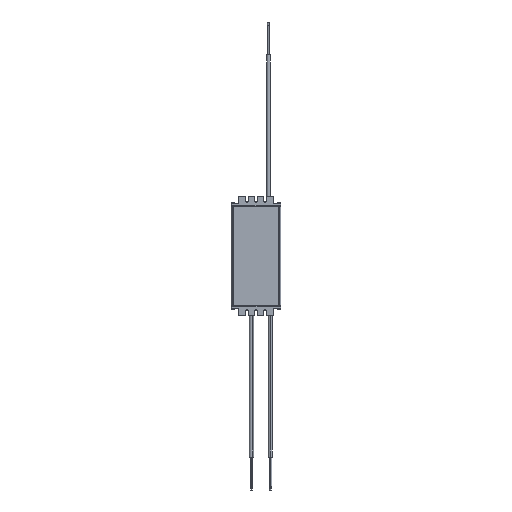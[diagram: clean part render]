
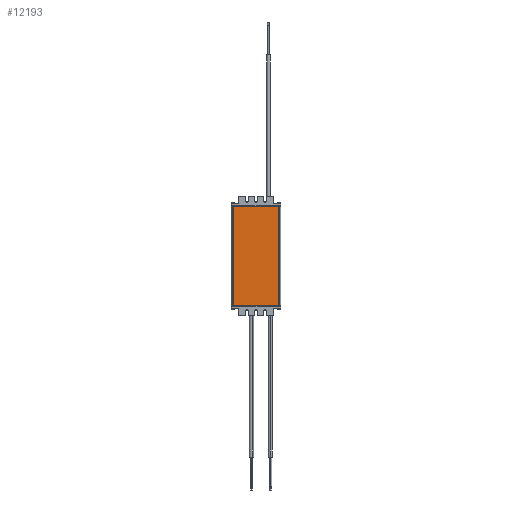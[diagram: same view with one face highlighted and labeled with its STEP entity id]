
A CAD part, front view. The second image highlights one B-rep face of the part: STEP entity #12193.
In plain terms, the highlighted planar face has unit normal (0, -1, 0).
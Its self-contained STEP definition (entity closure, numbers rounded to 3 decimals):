
#591 = VERTEX_POINT ( 'NONE', #1015 ) ;
#636 = EDGE_CURVE ( 'NONE', #9496, #591, #13024, .T. ) ;
#1015 = CARTESIAN_POINT ( 'NONE',  ( 21.536, 110.04, 0. ) ) ;
#2218 = LINE ( 'NONE', #36376, #18527 ) ;
#5076 = EDGE_CURVE ( 'NONE', #11136, #13632, #29777, .T. ) ;
#5698 = EDGE_CURVE ( 'NONE', #591, #13632, #2218, .T. ) ;
#6621 = ORIENTED_EDGE ( 'NONE', *, *, #636, .T. ) ;
#7942 = ORIENTED_EDGE ( 'NONE', *, *, #5076, .F. ) ;
#9496 = VERTEX_POINT ( 'NONE', #18930 ) ;
#10391 = CARTESIAN_POINT ( 'NONE',  ( 112.436, 110.04, 201. ) ) ;
#11136 = VERTEX_POINT ( 'NONE', #27860 ) ;
#12193 = ADVANCED_FACE ( 'NONE', ( #15938 ), #19555, .F. ) ;
#13024 = LINE ( 'NONE', #34621, #35963 ) ;
#13632 = VERTEX_POINT ( 'NONE', #38476 ) ;
#13853 = DIRECTION ( 'NONE',  ( 0., 0., -1. ) ) ;
#14138 = ORIENTED_EDGE ( 'NONE', *, *, #16105, .F. ) ;
#14823 = VECTOR ( 'NONE', #30092, 1000. ) ;
#15938 = FACE_OUTER_BOUND ( 'NONE', #38480, .T. ) ;
#16105 = EDGE_CURVE ( 'NONE', #9496, #11136, #26570, .T. ) ;
#16674 = CARTESIAN_POINT ( 'NONE',  ( 112.436, 110.04, 201. ) ) ;
#18466 = CARTESIAN_POINT ( 'NONE',  ( 112.436, 110.04, 201. ) ) ;
#18527 = VECTOR ( 'NONE', #24485, 1000. ) ;
#18930 = CARTESIAN_POINT ( 'NONE',  ( 21.536, 110.04, 201. ) ) ;
#19555 = PLANE ( 'NONE',  #34914 ) ;
#24485 = DIRECTION ( 'NONE',  ( 1., 0., 0. ) ) ;
#26570 = LINE ( 'NONE', #10391, #28858 ) ;
#27860 = CARTESIAN_POINT ( 'NONE',  ( 112.436, 110.04, 201. ) ) ;
#28424 = DIRECTION ( 'NONE',  ( 0., 0., 1. ) ) ;
#28858 = VECTOR ( 'NONE', #34270, 1000. ) ;
#29777 = LINE ( 'NONE', #18466, #14823 ) ;
#30092 = DIRECTION ( 'NONE',  ( 0., 0., -1. ) ) ;
#31930 = DIRECTION ( 'NONE',  ( 0., 1., 0. ) ) ;
#34270 = DIRECTION ( 'NONE',  ( 1., 0., 0. ) ) ;
#34621 = CARTESIAN_POINT ( 'NONE',  ( 21.536, 110.04, 201. ) ) ;
#34914 = AXIS2_PLACEMENT_3D ( 'NONE', #16674, #31930, #28424 ) ;
#35963 = VECTOR ( 'NONE', #13853, 1000. ) ;
#36376 = CARTESIAN_POINT ( 'NONE',  ( 112.436, 110.04, 0. ) ) ;
#37251 = ORIENTED_EDGE ( 'NONE', *, *, #5698, .T. ) ;
#38476 = CARTESIAN_POINT ( 'NONE',  ( 112.436, 110.04, 0. ) ) ;
#38480 = EDGE_LOOP ( 'NONE', ( #37251, #7942, #14138, #6621 ) ) ;
